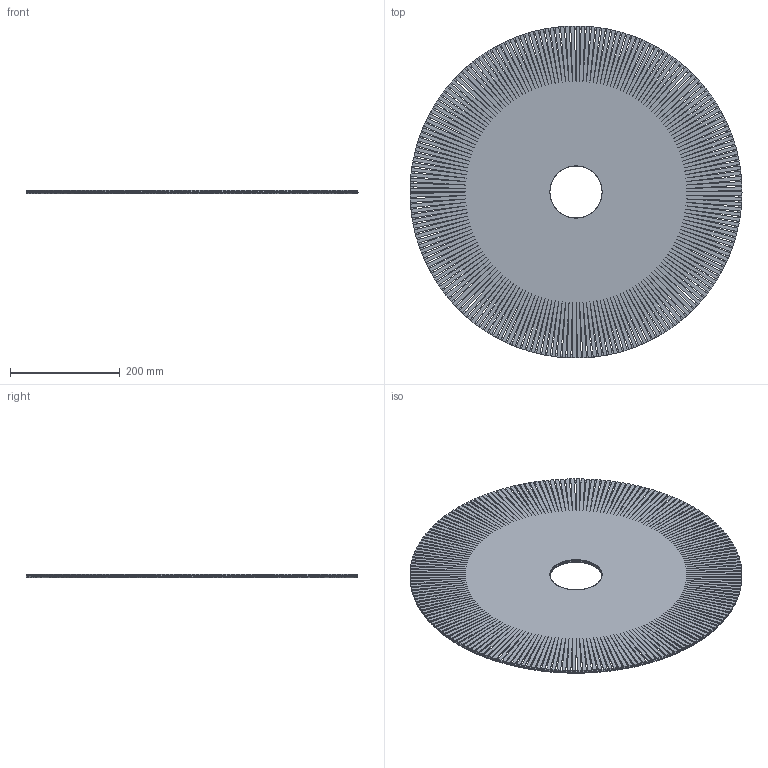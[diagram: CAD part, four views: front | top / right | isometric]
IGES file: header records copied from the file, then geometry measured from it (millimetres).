
Start section: SolidWorks IGES file using analytic representation for surfaces
Global section: file name: \\ARNOLD\compartida\Nueva Coleccion Septiembre 2026\WIND_1128\WIND 600\3D\WIND_600.IGS; native system: SolidWorks 2023; preprocessor: SolidWorks 2023; author: adrian; date: 260827.152002; units: millimetre
Bounding box: 605 x 604.97 x 7 mm (x, y, z)
Surface area: 615301.7 mm2 (no closed solid volume)
Topology: 0 solids, 0 shells, 1010 faces, 6032 edges, 6032 vertices
Faces by surface type: bspline 1010
